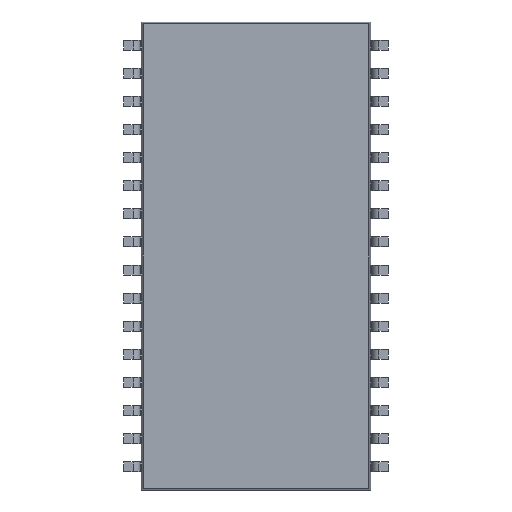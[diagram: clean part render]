
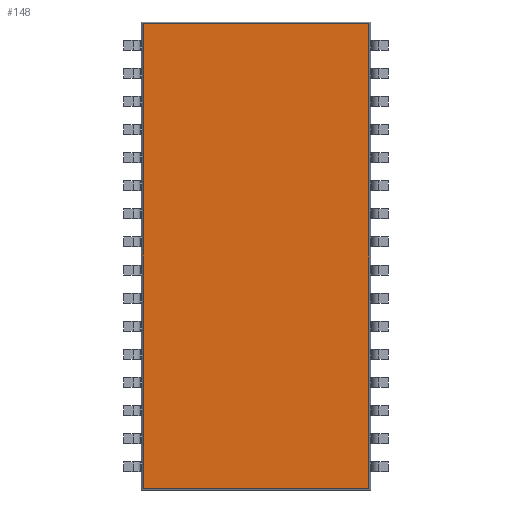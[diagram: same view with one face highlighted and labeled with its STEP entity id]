
A CAD part, front view. The second image highlights one B-rep face of the part: STEP entity #148.
In plain terms, the highlighted planar face has unit normal (0, -1, 0).
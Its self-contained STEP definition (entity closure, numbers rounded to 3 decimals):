
#148 = ADVANCED_FACE ( 'NONE', ( #6646 ), #5696, .F. ) ;
#584 = EDGE_CURVE ( 'NONE', #1614, #1609, #7445, .T. ) ;
#585 = EDGE_CURVE ( 'NONE', #1607, #1618, #7439, .T. ) ;
#1607 = VERTEX_POINT ( 'NONE', #8935 ) ;
#1609 = VERTEX_POINT ( 'NONE', #8937 ) ;
#1614 = VERTEX_POINT ( 'NONE', #8942 ) ;
#1618 = VERTEX_POINT ( 'NONE', #8946 ) ;
#2484 = EDGE_LOOP ( 'NONE', ( #2584, #2585, #2586, #2587 ) ) ;
#2584 = ORIENTED_EDGE ( 'NONE', *, *, #4079, .T. ) ;
#2585 = ORIENTED_EDGE ( 'NONE', *, *, #585, .T. ) ;
#2586 = ORIENTED_EDGE ( 'NONE', *, *, #4087, .T. ) ;
#2587 = ORIENTED_EDGE ( 'NONE', *, *, #584, .T. ) ;
#4079 = EDGE_CURVE ( 'NONE', #1609, #1607, #15748, .T. ) ;
#4087 = EDGE_CURVE ( 'NONE', #1618, #1614, #15762, .T. ) ;
#5696 = PLANE ( 'NONE',  #6301 ) ;
#5698 = CARTESIAN_POINT ( 'NONE',  ( 0., 0.1, 0. ) ) ;
#5710 = DIRECTION ( 'NONE',  ( 0., 1., 0. ) ) ;
#5711 = DIRECTION ( 'NONE',  ( 0., 0., 1. ) ) ;
#6301 = AXIS2_PLACEMENT_3D ( 'NONE', #5698, #5710, #5711 ) ;
#6646 = FACE_OUTER_BOUND ( 'NONE', #2484, .T. ) ;
#7439 = LINE ( 'NONE', #8536, #7450 ) ;
#7445 = LINE ( 'NONE', #8546, #7448 ) ;
#7448 = VECTOR ( 'NONE', #8548, 1000. ) ;
#7450 = VECTOR ( 'NONE', #8549, 1000. ) ;
#8536 = CARTESIAN_POINT ( 'NONE',  ( 5.18, 0.1, -10.491 ) ) ;
#8546 = CARTESIAN_POINT ( 'NONE',  ( 5.18, 0.1, 10.491 ) ) ;
#8548 = DIRECTION ( 'NONE',  ( -1., 0., 0. ) ) ;
#8549 = DIRECTION ( 'NONE',  ( 1., 0., 0. ) ) ;
#8935 = CARTESIAN_POINT ( 'NONE',  ( -5.096, 0.1, -10.491 ) ) ;
#8937 = CARTESIAN_POINT ( 'NONE',  ( -5.096, 0.1, 10.491 ) ) ;
#8942 = CARTESIAN_POINT ( 'NONE',  ( 5.096, 0.1, 10.491 ) ) ;
#8946 = CARTESIAN_POINT ( 'NONE',  ( 5.096, 0.1, -10.491 ) ) ;
#15748 = LINE ( 'NONE', #15908, #15765 ) ;
#15762 = LINE ( 'NONE', #15910, #15781 ) ;
#15765 = VECTOR ( 'NONE', #15926, 1000. ) ;
#15781 = VECTOR ( 'NONE', #15942, 1000. ) ;
#15908 = CARTESIAN_POINT ( 'NONE',  ( -5.096, 0.1, 10.575 ) ) ;
#15910 = CARTESIAN_POINT ( 'NONE',  ( 5.096, 0.1, 10.575 ) ) ;
#15926 = DIRECTION ( 'NONE',  ( 0., 0., -1. ) ) ;
#15942 = DIRECTION ( 'NONE',  ( 0., 0., 1. ) ) ;
